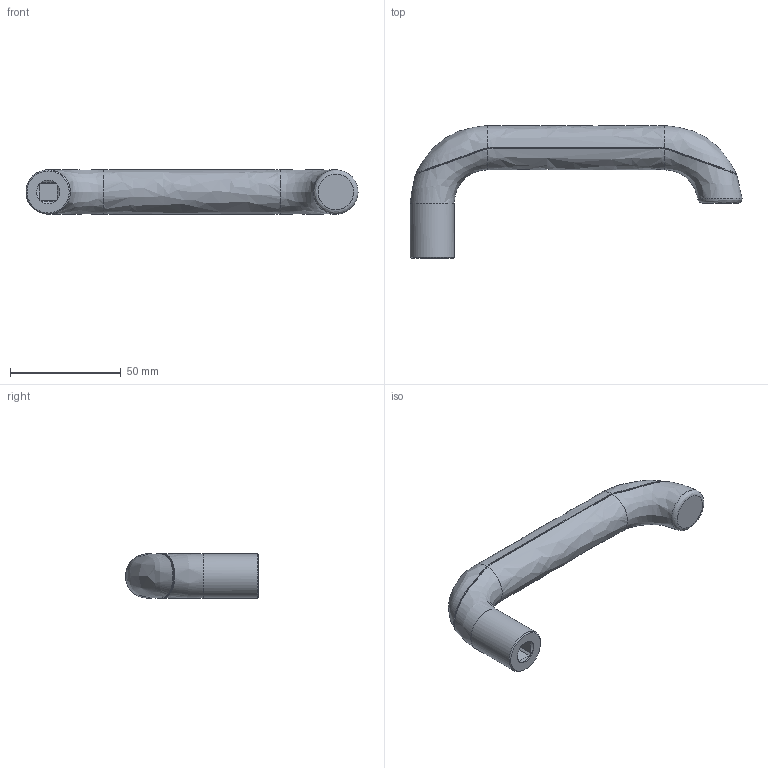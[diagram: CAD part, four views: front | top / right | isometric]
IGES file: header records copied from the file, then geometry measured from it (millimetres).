
Global section: file name: 2028819_A_PSEN ml DHM handle; native system: Autodesk Inventor 2020; preprocessor: unknown; author: jebe; date: 20200127.090030; units: millimetre
Bounding box: 149.94 x 60 x 20 mm (x, y, z)
Volume: 58401.7 mm3; surface area: 12530.3 mm2
Topology: 1 solids, 1 shells, 78 faces, 186 edges, 111 vertices
Faces by surface type: bspline 78
